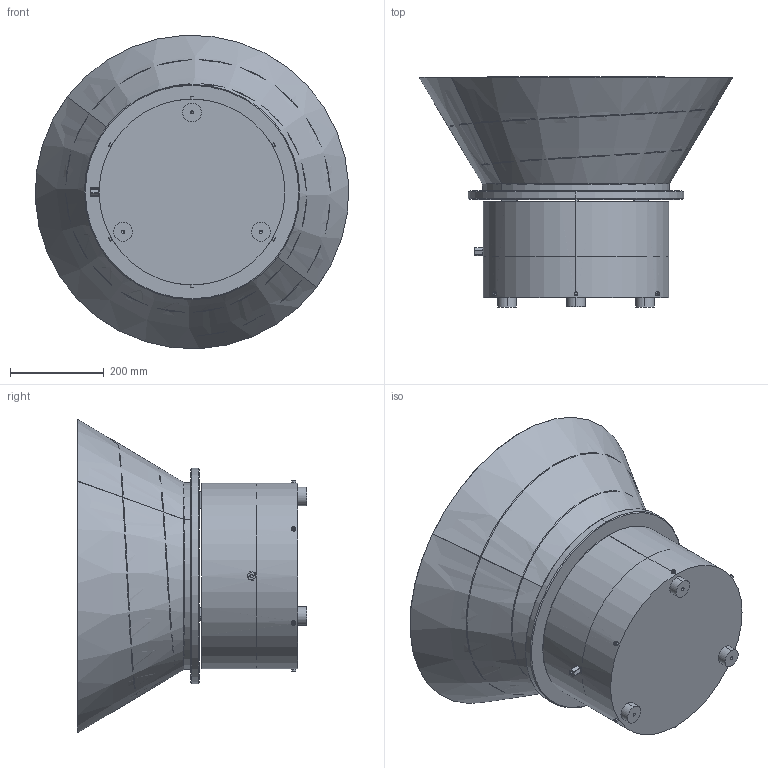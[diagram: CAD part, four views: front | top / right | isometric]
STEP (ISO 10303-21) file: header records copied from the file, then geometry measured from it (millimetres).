
FILE_DESCRIPTION (( 'STEP AP214' ), '1' );
FILE_NAME ('PW600_V670_LEWY_WIBRAMET.STEP', '2020-10-27T10:41:37', ( '' ), ( '' ), 'SwSTEP 2.0', 'SolidWorks 2017', '' );
FILE_SCHEMA (( 'AUTOMOTIVE_DESIGN' ));
Length unit declared in the file: millimetre
Products named in the file (5): V670L-S90-B25; PW500-00.22[Podk³adka]; PW500_WIBRAMET; PW600_V670_LEWY_WIBRAMET; socket head cap screw_iso_ISO 4762 M16 x 55 - 55N
Assembly tree (4 placements, depth 2):
  PW600_V670_LEWY_WIBRAMET
    PW500_WIBRAMET
    V670L-S90-B25
    PW500-00.22[Podk³adka]
    socket head cap screw_iso_ISO 4762 M16 x 55 - 55N
Bounding box: 669.27 x 490.67 x 669.27 mm (x, y, z)
Volume: 15532732.7 mm3; surface area: 2392235.8 mm2
Topology: 4 solids, 4 shells, 238 faces, 549 edges, 333 vertices
Faces by surface type: plane 98, cylinder 65, cone 36, bspline 17, torus 16, sphere 6
Entity records: 11033 total; most frequent: CARTESIAN_POINT 4785, DIRECTION 1112, ORIENTED_EDGE 1074, EDGE_CURVE 537, AXIS2_PLACEMENT_3D 413, VERTEX_POINT 331, VECTOR 286, LINE 286
